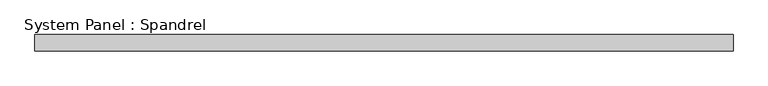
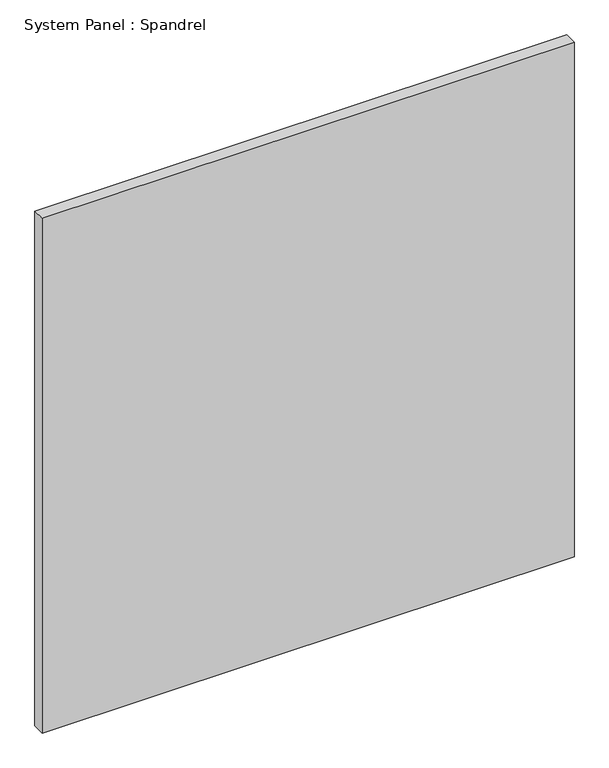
"""IFC4 building model written with IfcOpenShell, lengths in millimetres: plate geometry, System Panel : Spandrel."""

from ifc_helpers import new_model, si_unit, origin, origin_with_axes, place, context, project, spatial, polyline, outline, extrude, source, transform, mapped, element, save


def system_panel_spandrel_469b1806(model_context):
    return source(origin(), model_context, "Body", "SweptSolid", [
        extrude(outline(polyline([(537.4999999, -25.0), (-537.4999999, -25.0), (-537.4999999, 0.0), (537.4999999, 0.0), (537.4999999, -25.0)])), origin_with_axes(), (0.0, 0.0, 1.0), 1100.0),
    ])


if __name__ == "__main__":
    model = new_model("IFC4")
    model_context = context("Model", 3, world=origin())
    ifc_project = project(units=[si_unit("LENGTHUNIT", "METRE", prefix="MILLI")], contexts=[model_context])
    site = spatial("IfcSite", under=ifc_project)
    building = spatial("IfcBuilding", under=site)
    placement = place(None, origin())
    system_panel_spandrel_shape = system_panel_spandrel_469b1806(model_context)
    element("IfcPlate", 1, ObjectType="System Panel : Spandrel", at=placement, inside=building, context=model_context, shape_type="MappedRepresentation", body=[
        mapped(system_panel_spandrel_shape, transform((0.0, 0.0, 0.0), x_axis=(1.0, 0.0, 0.0), y_axis=(0.0, 1.0, 0.0), z_axis=(0.0, 0.0, 1.0))),
    ])
    save(model, "model.ifc")
